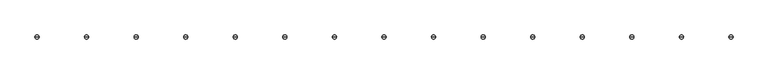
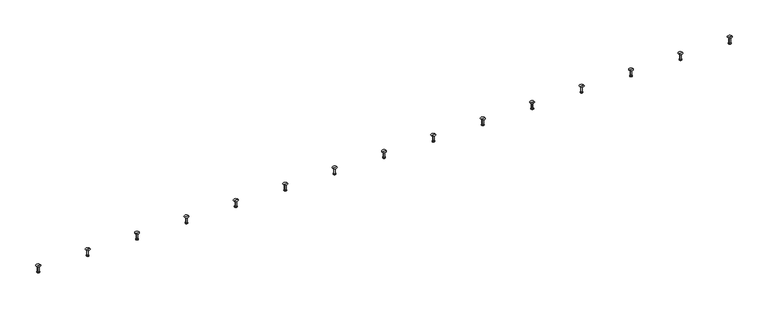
"""IFC4 building model written with IfcOpenShell, lengths in millimetres: fastener geometry, JTA-K JORDAHL® AnchorChannels : JTA-K L=6000 mm."""

from ifc_helpers import new_model, si_unit, frame, origin, place, context, project, spatial, polyline, circle_curve, source, transform, mapped, element, save
from ifc_brep_helpers import plane_surface, cylinder_surface, revolved_surface, advanced_brep


def fastener_de6a3690(model_context):
    return source(origin(), model_context, "Body", "AdvancedBrep", [
        advanced_brep(
        [(3991.6666667, 0.0, -15.0), (4002.1666667, 0.0, -15.0), (3981.1666667, 0.0, -15.0), (3985.6666667, 0.0, -50.0), (3997.6666667, 0.0, -50.0), (3991.6666667, 0.0, -50.0), (3985.6666667, 0.0, -48.0), (3997.6666667, 0.0, -48.0), (3988.1666667, 0.0, -46.5566243), (3995.1666667, 0.0, -46.5566243), (3988.1666667, 0.0, -17.5), (3995.1666667, 0.0, -17.5)],
        [
            (0, 1),
            (1, 2, circle_curve(frame((3991.6666667, 0.0, -15.0), z_axis=(0.0, 0.0, 1.0), x_axis=(1.0, 0.0, 0.0)), 10.5)),
            (2, 0),
            (2, 1, circle_curve(frame((3991.6666667, 0.0, -15.0), z_axis=(0.0, 0.0, 1.0), x_axis=(1.0, 0.0, 0.0)), 10.5)),
            (3, 4, circle_curve(frame((3991.6666667, 0.0, -50.0), z_axis=(0.0, 0.0, -1.0), x_axis=(1.0, 0.0, 0.0)), 6.0)),
            (4, 5),
            (5, 3),
            (4, 3, circle_curve(frame((3991.6666667, 0.0, -50.0), z_axis=(0.0, 0.0, -1.0), x_axis=(1.0, 0.0, 0.0)), 6.0)),
            (6, 7, circle_curve(frame((3991.6666667, 0.0, -48.0), z_axis=(0.0, 0.0, -1.0), x_axis=(1.0, 0.0, 0.0)), 6.0)),
            (7, 4),
            (3, 6),
            (7, 6, circle_curve(frame((3991.6666667, 0.0, -48.0), z_axis=(0.0, 0.0, -1.0), x_axis=(1.0, 0.0, 0.0)), 6.0)),
            (8, 9, circle_curve(frame((3991.6666667, 0.0, -46.5566243), z_axis=(0.0, 0.0, -1.0), x_axis=(1.0, 0.0, 0.0)), 3.5)),
            (9, 7),
            (6, 8),
            (9, 8, circle_curve(frame((3991.6666667, 0.0, -46.5566243), z_axis=(0.0, 0.0, -1.0), x_axis=(1.0, 0.0, 0.0)), 3.5)),
            (10, 11, circle_curve(frame((3991.6666667, 0.0, -17.5), z_axis=(0.0, 0.0, -1.0), x_axis=(1.0, 0.0, 0.0)), 3.5)),
            (11, 9),
            (8, 10),
            (11, 10, circle_curve(frame((3991.6666667, 0.0, -17.5), z_axis=(0.0, 0.0, -1.0), x_axis=(1.0, 0.0, 0.0)), 3.5)),
            (1, 11),
            (10, 2),
        ],
        [
            plane_surface(frame((3991.6666667, 0.0, -15.0), z_axis=(0.0, 0.0, 1.0), x_axis=(1.0, 0.0, 0.0))),
            plane_surface(frame((3991.6666667, 0.0, -50.0), z_axis=(0.0, 0.0, -1.0), x_axis=(1.0, 0.0, 0.0))),
            cylinder_surface(frame((3991.6666667, 0.0, 2249.3150031), z_axis=(0.0, 0.0, 1.0), x_axis=(1.0, 0.0, 0.0)), 6.0),
            revolved_surface(polyline([(3997.6666667, 0.0, -48.0), (3995.1666667, 0.0, -46.5566243)]), (3991.6666667, 0.0, 2249.3150031), (0.0, 0.0, 1.0)),
            cylinder_surface(frame((3991.6666667, 0.0, 2249.3150031), z_axis=(0.0, 0.0, 1.0), x_axis=(1.0, 0.0, 0.0)), 3.5),
            revolved_surface(polyline([(3995.1666667, 0.0, -17.5), (4002.1666667, 0.0, -15.0)]), (3991.6666667, 0.0, 2249.3150031), (0.0, 0.0, 1.0)),
        ],
        [
            (0, [[1, 2, 3]]),
            (0, [[-3, 4, -1]]),
            (1, [[5, 6, 7]]),
            (1, [[8, -7, -6]]),
            (2, [[9, 10, -5, 11]]),
            (2, [[12, -11, -8, -10]]),
            (3, [[13, 14, -9, 15]]),
            (3, [[16, -15, -12, -14]]),
            (4, [[17, 18, -13, 19]]),
            (4, [[20, -19, -16, -18]]),
            (5, [[-2, 21, -17, 22]]),
            (5, [[-4, -22, -20, -21]]),
        ],
    ),
        advanced_brep(
        [(3743.75, 0.0, -15.0), (3754.25, 0.0, -15.0), (3733.25, 0.0, -15.0), (3737.75, 0.0, -50.0), (3749.75, 0.0, -50.0), (3743.75, 0.0, -50.0), (3737.75, 0.0, -48.0), (3749.75, 0.0, -48.0), (3740.25, 0.0, -46.5566243), (3747.25, 0.0, -46.5566243), (3740.25, 0.0, -17.5), (3747.25, 0.0, -17.5)],
        [
            (0, 1),
            (1, 2, circle_curve(frame((3743.75, 0.0, -15.0), z_axis=(0.0, 0.0, 1.0), x_axis=(1.0, 0.0, 0.0)), 10.5)),
            (2, 0),
            (2, 1, circle_curve(frame((3743.75, 0.0, -15.0), z_axis=(0.0, 0.0, 1.0), x_axis=(1.0, 0.0, 0.0)), 10.5)),
            (3, 4, circle_curve(frame((3743.75, 0.0, -50.0), z_axis=(0.0, 0.0, -1.0), x_axis=(1.0, 0.0, 0.0)), 6.0)),
            (4, 5),
            (5, 3),
            (4, 3, circle_curve(frame((3743.75, 0.0, -50.0), z_axis=(0.0, 0.0, -1.0), x_axis=(1.0, 0.0, 0.0)), 6.0)),
            (6, 7, circle_curve(frame((3743.75, 0.0, -48.0), z_axis=(0.0, 0.0, -1.0), x_axis=(1.0, 0.0, 0.0)), 6.0)),
            (7, 4),
            (3, 6),
            (7, 6, circle_curve(frame((3743.75, 0.0, -48.0), z_axis=(0.0, 0.0, -1.0), x_axis=(1.0, 0.0, 0.0)), 6.0)),
            (8, 9, circle_curve(frame((3743.75, 0.0, -46.5566243), z_axis=(0.0, 0.0, -1.0), x_axis=(1.0, 0.0, 0.0)), 3.5)),
            (9, 7),
            (6, 8),
            (9, 8, circle_curve(frame((3743.75, 0.0, -46.5566243), z_axis=(0.0, 0.0, -1.0), x_axis=(1.0, 0.0, 0.0)), 3.5)),
            (10, 11, circle_curve(frame((3743.75, 0.0, -17.5), z_axis=(0.0, 0.0, -1.0), x_axis=(1.0, 0.0, 0.0)), 3.5)),
            (11, 9),
            (8, 10),
            (11, 10, circle_curve(frame((3743.75, 0.0, -17.5), z_axis=(0.0, 0.0, -1.0), x_axis=(1.0, 0.0, 0.0)), 3.5)),
            (1, 11),
            (10, 2),
        ],
        [
            plane_surface(frame((3743.75, 0.0, -15.0), z_axis=(0.0, 0.0, 1.0), x_axis=(1.0, 0.0, 0.0))),
            plane_surface(frame((3743.75, 0.0, -50.0), z_axis=(0.0, 0.0, -1.0), x_axis=(1.0, 0.0, 0.0))),
            cylinder_surface(frame((3743.75, 0.0, 2249.3150031), z_axis=(0.0, 0.0, 1.0), x_axis=(1.0, 0.0, 0.0)), 6.0),
            revolved_surface(polyline([(3749.75, 0.0, -48.0), (3747.25, 0.0, -46.5566243)]), (3743.75, 0.0, 2249.3150031), (0.0, 0.0, 1.0)),
            cylinder_surface(frame((3743.75, 0.0, 2249.3150031), z_axis=(0.0, 0.0, 1.0), x_axis=(1.0, 0.0, 0.0)), 3.5),
            revolved_surface(polyline([(3747.25, 0.0, -17.5), (3754.25, 0.0, -15.0)]), (3743.75, 0.0, 2249.3150031), (0.0, 0.0, 1.0)),
        ],
        [
            (0, [[1, 2, 3]]),
            (0, [[-3, 4, -1]]),
            (1, [[5, 6, 7]]),
            (1, [[8, -7, -6]]),
            (2, [[9, 10, -5, 11]]),
            (2, [[12, -11, -8, -10]]),
            (3, [[13, 14, -9, 15]]),
            (3, [[16, -15, -12, -14]]),
            (4, [[17, 18, -13, 19]]),
            (4, [[20, -19, -16, -18]]),
            (5, [[-2, 21, -17, 22]]),
            (5, [[-4, -22, -20, -21]]),
        ],
    ),
        advanced_brep(
        [(3495.8333333, 0.0, -15.0), (3506.3333333, 0.0, -15.0), (3485.3333333, 0.0, -15.0), (3489.8333333, 0.0, -50.0), (3501.8333333, 0.0, -50.0), (3495.8333333, 0.0, -50.0), (3489.8333333, 0.0, -48.0), (3501.8333333, 0.0, -48.0), (3492.3333333, 0.0, -46.5566243), (3499.3333333, 0.0, -46.5566243), (3492.3333333, 0.0, -17.5), (3499.3333333, 0.0, -17.5)],
        [
            (0, 1),
            (1, 2, circle_curve(frame((3495.8333333, 0.0, -15.0), z_axis=(0.0, 0.0, 1.0), x_axis=(1.0, 0.0, 0.0)), 10.5)),
            (2, 0),
            (2, 1, circle_curve(frame((3495.8333333, 0.0, -15.0), z_axis=(0.0, 0.0, 1.0), x_axis=(1.0, 0.0, 0.0)), 10.5)),
            (3, 4, circle_curve(frame((3495.8333333, 0.0, -50.0), z_axis=(0.0, 0.0, -1.0), x_axis=(1.0, 0.0, 0.0)), 6.0)),
            (4, 5),
            (5, 3),
            (4, 3, circle_curve(frame((3495.8333333, 0.0, -50.0), z_axis=(0.0, 0.0, -1.0), x_axis=(1.0, 0.0, 0.0)), 6.0)),
            (6, 7, circle_curve(frame((3495.8333333, 0.0, -48.0), z_axis=(0.0, 0.0, -1.0), x_axis=(1.0, 0.0, 0.0)), 6.0)),
            (7, 4),
            (3, 6),
            (7, 6, circle_curve(frame((3495.8333333, 0.0, -48.0), z_axis=(0.0, 0.0, -1.0), x_axis=(1.0, 0.0, 0.0)), 6.0)),
            (8, 9, circle_curve(frame((3495.8333333, 0.0, -46.5566243), z_axis=(0.0, 0.0, -1.0), x_axis=(1.0, 0.0, 0.0)), 3.5)),
            (9, 7),
            (6, 8),
            (9, 8, circle_curve(frame((3495.8333333, 0.0, -46.5566243), z_axis=(0.0, 0.0, -1.0), x_axis=(1.0, 0.0, 0.0)), 3.5)),
            (10, 11, circle_curve(frame((3495.8333333, 0.0, -17.5), z_axis=(0.0, 0.0, -1.0), x_axis=(1.0, 0.0, 0.0)), 3.5)),
            (11, 9),
            (8, 10),
            (11, 10, circle_curve(frame((3495.8333333, 0.0, -17.5), z_axis=(0.0, 0.0, -1.0), x_axis=(1.0, 0.0, 0.0)), 3.5)),
            (1, 11),
            (10, 2),
        ],
        [
            plane_surface(frame((3495.8333333, 0.0, -15.0), z_axis=(0.0, 0.0, 1.0), x_axis=(1.0, 0.0, 0.0))),
            plane_surface(frame((3495.8333333, 0.0, -50.0), z_axis=(0.0, 0.0, -1.0), x_axis=(1.0, 0.0, 0.0))),
            cylinder_surface(frame((3495.8333333, 0.0, 2249.3150031), z_axis=(0.0, 0.0, 1.0), x_axis=(1.0, 0.0, 0.0)), 6.0),
            revolved_surface(polyline([(3501.8333333, 0.0, -48.0), (3499.3333333, 0.0, -46.5566243)]), (3495.8333333, 0.0, 2249.3150031), (0.0, 0.0, 1.0)),
            cylinder_surface(frame((3495.8333333, 0.0, 2249.3150031), z_axis=(0.0, 0.0, 1.0), x_axis=(1.0, 0.0, 0.0)), 3.5),
            revolved_surface(polyline([(3499.3333333, 0.0, -17.5), (3506.3333333, 0.0, -15.0)]), (3495.8333333, 0.0, 2249.3150031), (0.0, 0.0, 1.0)),
        ],
        [
            (0, [[1, 2, 3]]),
            (0, [[-3, 4, -1]]),
            (1, [[5, 6, 7]]),
            (1, [[8, -7, -6]]),
            (2, [[9, 10, -5, 11]]),
            (2, [[12, -11, -8, -10]]),
            (3, [[13, 14, -9, 15]]),
            (3, [[16, -15, -12, -14]]),
            (4, [[17, 18, -13, 19]]),
            (4, [[20, -19, -16, -18]]),
            (5, [[-2, 21, -17, 22]]),
            (5, [[-4, -22, -20, -21]]),
        ],
    ),
        advanced_brep(
        [(3247.9166667, 0.0, -15.0), (3258.4166667, 0.0, -15.0), (3237.4166667, 0.0, -15.0), (3241.9166667, 0.0, -50.0), (3253.9166667, 0.0, -50.0), (3247.9166667, 0.0, -50.0), (3241.9166667, 0.0, -48.0), (3253.9166667, 0.0, -48.0), (3244.4166667, 0.0, -46.5566243), (3251.4166667, 0.0, -46.5566243), (3244.4166667, 0.0, -17.5), (3251.4166667, 0.0, -17.5)],
        [
            (0, 1),
            (1, 2, circle_curve(frame((3247.9166667, 0.0, -15.0), z_axis=(0.0, 0.0, 1.0), x_axis=(1.0, 0.0, 0.0)), 10.5)),
            (2, 0),
            (2, 1, circle_curve(frame((3247.9166667, 0.0, -15.0), z_axis=(0.0, 0.0, 1.0), x_axis=(1.0, 0.0, 0.0)), 10.5)),
            (3, 4, circle_curve(frame((3247.9166667, 0.0, -50.0), z_axis=(0.0, 0.0, -1.0), x_axis=(1.0, 0.0, 0.0)), 6.0)),
            (4, 5),
            (5, 3),
            (4, 3, circle_curve(frame((3247.9166667, 0.0, -50.0), z_axis=(0.0, 0.0, -1.0), x_axis=(1.0, 0.0, 0.0)), 6.0)),
            (6, 7, circle_curve(frame((3247.9166667, 0.0, -48.0), z_axis=(0.0, 0.0, -1.0), x_axis=(1.0, 0.0, 0.0)), 6.0)),
            (7, 4),
            (3, 6),
            (7, 6, circle_curve(frame((3247.9166667, 0.0, -48.0), z_axis=(0.0, 0.0, -1.0), x_axis=(1.0, 0.0, 0.0)), 6.0)),
            (8, 9, circle_curve(frame((3247.9166667, 0.0, -46.5566243), z_axis=(0.0, 0.0, -1.0), x_axis=(1.0, 0.0, 0.0)), 3.5)),
            (9, 7),
            (6, 8),
            (9, 8, circle_curve(frame((3247.9166667, 0.0, -46.5566243), z_axis=(0.0, 0.0, -1.0), x_axis=(1.0, 0.0, 0.0)), 3.5)),
            (10, 11, circle_curve(frame((3247.9166667, 0.0, -17.5), z_axis=(0.0, 0.0, -1.0), x_axis=(1.0, 0.0, 0.0)), 3.5)),
            (11, 9),
            (8, 10),
            (11, 10, circle_curve(frame((3247.9166667, 0.0, -17.5), z_axis=(0.0, 0.0, -1.0), x_axis=(1.0, 0.0, 0.0)), 3.5)),
            (1, 11),
            (10, 2),
        ],
        [
            plane_surface(frame((3247.9166667, 0.0, -15.0), z_axis=(0.0, 0.0, 1.0), x_axis=(1.0, 0.0, 0.0))),
            plane_surface(frame((3247.9166667, 0.0, -50.0), z_axis=(0.0, 0.0, -1.0), x_axis=(1.0, 0.0, 0.0))),
            cylinder_surface(frame((3247.9166667, 0.0, 2249.3150031), z_axis=(0.0, 0.0, 1.0), x_axis=(1.0, 0.0, 0.0)), 6.0),
            revolved_surface(polyline([(3253.9166667, 0.0, -48.0), (3251.4166667, 0.0, -46.5566243)]), (3247.9166667, 0.0, 2249.3150031), (0.0, 0.0, 1.0)),
            cylinder_surface(frame((3247.9166667, 0.0, 2249.3150031), z_axis=(0.0, 0.0, 1.0), x_axis=(1.0, 0.0, 0.0)), 3.5),
            revolved_surface(polyline([(3251.4166667, 0.0, -17.5), (3258.4166667, 0.0, -15.0)]), (3247.9166667, 0.0, 2249.3150031), (0.0, 0.0, 1.0)),
        ],
        [
            (0, [[1, 2, 3]]),
            (0, [[-3, 4, -1]]),
            (1, [[5, 6, 7]]),
            (1, [[8, -7, -6]]),
            (2, [[9, 10, -5, 11]]),
            (2, [[12, -11, -8, -10]]),
            (3, [[13, 14, -9, 15]]),
            (3, [[16, -15, -12, -14]]),
            (4, [[17, 18, -13, 19]]),
            (4, [[20, -19, -16, -18]]),
            (5, [[-2, 21, -17, 22]]),
            (5, [[-4, -22, -20, -21]]),
        ],
    ),
        advanced_brep(
        [(3000.0, 0.0, -15.0), (3010.5, 0.0, -15.0), (2989.5, 0.0, -15.0), (2994.0, 0.0, -50.0), (3006.0, 0.0, -50.0), (3000.0, 0.0, -50.0), (2994.0, 0.0, -48.0), (3006.0, 0.0, -48.0), (2996.5, 0.0, -46.5566243), (3003.5, 0.0, -46.5566243), (2996.5, 0.0, -17.5), (3003.5, 0.0, -17.5)],
        [
            (0, 1),
            (1, 2, circle_curve(frame((3000.0, 0.0, -15.0), z_axis=(0.0, 0.0, 1.0), x_axis=(1.0, 0.0, 0.0)), 10.5)),
            (2, 0),
            (2, 1, circle_curve(frame((3000.0, 0.0, -15.0), z_axis=(0.0, 0.0, 1.0), x_axis=(1.0, 0.0, 0.0)), 10.5)),
            (3, 4, circle_curve(frame((3000.0, 0.0, -50.0), z_axis=(0.0, 0.0, -1.0), x_axis=(1.0, 0.0, 0.0)), 6.0)),
            (4, 5),
            (5, 3),
            (4, 3, circle_curve(frame((3000.0, 0.0, -50.0), z_axis=(0.0, 0.0, -1.0), x_axis=(1.0, 0.0, 0.0)), 6.0)),
            (6, 7, circle_curve(frame((3000.0, 0.0, -48.0), z_axis=(0.0, 0.0, -1.0), x_axis=(1.0, 0.0, 0.0)), 6.0)),
            (7, 4),
            (3, 6),
            (7, 6, circle_curve(frame((3000.0, 0.0, -48.0), z_axis=(0.0, 0.0, -1.0), x_axis=(1.0, 0.0, 0.0)), 6.0)),
            (8, 9, circle_curve(frame((3000.0, 0.0, -46.5566243), z_axis=(0.0, 0.0, -1.0), x_axis=(1.0, 0.0, 0.0)), 3.5)),
            (9, 7),
            (6, 8),
            (9, 8, circle_curve(frame((3000.0, 0.0, -46.5566243), z_axis=(0.0, 0.0, -1.0), x_axis=(1.0, 0.0, 0.0)), 3.5)),
            (10, 11, circle_curve(frame((3000.0, 0.0, -17.5), z_axis=(0.0, 0.0, -1.0), x_axis=(1.0, 0.0, 0.0)), 3.5)),
            (11, 9),
            (8, 10),
            (11, 10, circle_curve(frame((3000.0, 0.0, -17.5), z_axis=(0.0, 0.0, -1.0), x_axis=(1.0, 0.0, 0.0)), 3.5)),
            (1, 11),
            (10, 2),
        ],
        [
            plane_surface(frame((3000.0, 0.0, -15.0), z_axis=(0.0, 0.0, 1.0), x_axis=(1.0, 0.0, 0.0))),
            plane_surface(frame((3000.0, 0.0, -50.0), z_axis=(0.0, 0.0, -1.0), x_axis=(1.0, 0.0, 0.0))),
            cylinder_surface(frame((3000.0, 0.0, 2249.3150031), z_axis=(0.0, 0.0, 1.0), x_axis=(1.0, 0.0, 0.0)), 6.0),
            revolved_surface(polyline([(3006.0, 0.0, -48.0), (3003.5, 0.0, -46.5566243)]), (3000.0, 0.0, 2249.3150031), (0.0, 0.0, 1.0)),
            cylinder_surface(frame((3000.0, 0.0, 2249.3150031), z_axis=(0.0, 0.0, 1.0), x_axis=(1.0, 0.0, 0.0)), 3.5),
            revolved_surface(polyline([(3003.5, 0.0, -17.5), (3010.5, 0.0, -15.0)]), (3000.0, 0.0, 2249.3150031), (0.0, 0.0, 1.0)),
        ],
        [
            (0, [[1, 2, 3]]),
            (0, [[-3, 4, -1]]),
            (1, [[5, 6, 7]]),
            (1, [[8, -7, -6]]),
            (2, [[9, 10, -5, 11]]),
            (2, [[12, -11, -8, -10]]),
            (3, [[13, 14, -9, 15]]),
            (3, [[16, -15, -12, -14]]),
            (4, [[17, 18, -13, 19]]),
            (4, [[20, -19, -16, -18]]),
            (5, [[-2, 21, -17, 22]]),
            (5, [[-4, -22, -20, -21]]),
        ],
    ),
        advanced_brep(
        [(2752.0833333, 0.0, -15.0), (2762.5833333, 0.0, -15.0), (2741.5833333, 0.0, -15.0), (2746.0833333, 0.0, -50.0), (2758.0833333, 0.0, -50.0), (2752.0833333, 0.0, -50.0), (2746.0833333, 0.0, -48.0), (2758.0833333, 0.0, -48.0), (2748.5833333, 0.0, -46.5566243), (2755.5833333, 0.0, -46.5566243), (2748.5833333, 0.0, -17.5), (2755.5833333, 0.0, -17.5)],
        [
            (0, 1),
            (1, 2, circle_curve(frame((2752.0833333, 0.0, -15.0), z_axis=(0.0, 0.0, 1.0), x_axis=(1.0, 0.0, 0.0)), 10.5)),
            (2, 0),
            (2, 1, circle_curve(frame((2752.0833333, 0.0, -15.0), z_axis=(0.0, 0.0, 1.0), x_axis=(1.0, 0.0, 0.0)), 10.5)),
            (3, 4, circle_curve(frame((2752.0833333, 0.0, -50.0), z_axis=(0.0, 0.0, -1.0), x_axis=(1.0, 0.0, 0.0)), 6.0)),
            (4, 5),
            (5, 3),
            (4, 3, circle_curve(frame((2752.0833333, 0.0, -50.0), z_axis=(0.0, 0.0, -1.0), x_axis=(1.0, 0.0, 0.0)), 6.0)),
            (6, 7, circle_curve(frame((2752.0833333, 0.0, -48.0), z_axis=(0.0, 0.0, -1.0), x_axis=(1.0, 0.0, 0.0)), 6.0)),
            (7, 4),
            (3, 6),
            (7, 6, circle_curve(frame((2752.0833333, 0.0, -48.0), z_axis=(0.0, 0.0, -1.0), x_axis=(1.0, 0.0, 0.0)), 6.0)),
            (8, 9, circle_curve(frame((2752.0833333, 0.0, -46.5566243), z_axis=(0.0, 0.0, -1.0), x_axis=(1.0, 0.0, 0.0)), 3.5)),
            (9, 7),
            (6, 8),
            (9, 8, circle_curve(frame((2752.0833333, 0.0, -46.5566243), z_axis=(0.0, 0.0, -1.0), x_axis=(1.0, 0.0, 0.0)), 3.5)),
            (10, 11, circle_curve(frame((2752.0833333, 0.0, -17.5), z_axis=(0.0, 0.0, -1.0), x_axis=(1.0, 0.0, 0.0)), 3.5)),
            (11, 9),
            (8, 10),
            (11, 10, circle_curve(frame((2752.0833333, 0.0, -17.5), z_axis=(0.0, 0.0, -1.0), x_axis=(1.0, 0.0, 0.0)), 3.5)),
            (1, 11),
            (10, 2),
        ],
        [
            plane_surface(frame((2752.0833333, 0.0, -15.0), z_axis=(0.0, 0.0, 1.0), x_axis=(1.0, 0.0, 0.0))),
            plane_surface(frame((2752.0833333, 0.0, -50.0), z_axis=(0.0, 0.0, -1.0), x_axis=(1.0, 0.0, 0.0))),
            cylinder_surface(frame((2752.0833333, 0.0, 2249.3150031), z_axis=(0.0, 0.0, 1.0), x_axis=(1.0, 0.0, 0.0)), 6.0),
            revolved_surface(polyline([(2758.0833333, 0.0, -48.0), (2755.5833333, 0.0, -46.5566243)]), (2752.0833333, 0.0, 2249.3150031), (0.0, 0.0, 1.0)),
            cylinder_surface(frame((2752.0833333, 0.0, 2249.3150031), z_axis=(0.0, 0.0, 1.0), x_axis=(1.0, 0.0, 0.0)), 3.5),
            revolved_surface(polyline([(2755.5833333, 0.0, -17.5), (2762.5833333, 0.0, -15.0)]), (2752.0833333, 0.0, 2249.3150031), (0.0, 0.0, 1.0)),
        ],
        [
            (0, [[1, 2, 3]]),
            (0, [[-3, 4, -1]]),
            (1, [[5, 6, 7]]),
            (1, [[8, -7, -6]]),
            (2, [[9, 10, -5, 11]]),
            (2, [[12, -11, -8, -10]]),
            (3, [[13, 14, -9, 15]]),
            (3, [[16, -15, -12, -14]]),
            (4, [[17, 18, -13, 19]]),
            (4, [[20, -19, -16, -18]]),
            (5, [[-2, 21, -17, 22]]),
            (5, [[-4, -22, -20, -21]]),
        ],
    ),
        advanced_brep(
        [(2504.1666667, 0.0, -15.0), (2514.6666667, 0.0, -15.0), (2493.6666667, 0.0, -15.0), (2498.1666667, 0.0, -50.0), (2510.1666667, 0.0, -50.0), (2504.1666667, 0.0, -50.0), (2498.1666667, 0.0, -48.0), (2510.1666667, 0.0, -48.0), (2500.6666667, 0.0, -46.5566243), (2507.6666667, 0.0, -46.5566243), (2500.6666667, 0.0, -17.5), (2507.6666667, 0.0, -17.5)],
        [
            (0, 1),
            (1, 2, circle_curve(frame((2504.1666667, 0.0, -15.0), z_axis=(0.0, 0.0, 1.0), x_axis=(1.0, 0.0, 0.0)), 10.5)),
            (2, 0),
            (2, 1, circle_curve(frame((2504.1666667, 0.0, -15.0), z_axis=(0.0, 0.0, 1.0), x_axis=(1.0, 0.0, 0.0)), 10.5)),
            (3, 4, circle_curve(frame((2504.1666667, 0.0, -50.0), z_axis=(0.0, 0.0, -1.0), x_axis=(1.0, 0.0, 0.0)), 6.0)),
            (4, 5),
            (5, 3),
            (4, 3, circle_curve(frame((2504.1666667, 0.0, -50.0), z_axis=(0.0, 0.0, -1.0), x_axis=(1.0, 0.0, 0.0)), 6.0)),
            (6, 7, circle_curve(frame((2504.1666667, 0.0, -48.0), z_axis=(0.0, 0.0, -1.0), x_axis=(1.0, 0.0, 0.0)), 6.0)),
            (7, 4),
            (3, 6),
            (7, 6, circle_curve(frame((2504.1666667, 0.0, -48.0), z_axis=(0.0, 0.0, -1.0), x_axis=(1.0, 0.0, 0.0)), 6.0)),
            (8, 9, circle_curve(frame((2504.1666667, 0.0, -46.5566243), z_axis=(0.0, 0.0, -1.0), x_axis=(1.0, 0.0, 0.0)), 3.5)),
            (9, 7),
            (6, 8),
            (9, 8, circle_curve(frame((2504.1666667, 0.0, -46.5566243), z_axis=(0.0, 0.0, -1.0), x_axis=(1.0, 0.0, 0.0)), 3.5)),
            (10, 11, circle_curve(frame((2504.1666667, 0.0, -17.5), z_axis=(0.0, 0.0, -1.0), x_axis=(1.0, 0.0, 0.0)), 3.5)),
            (11, 9),
            (8, 10),
            (11, 10, circle_curve(frame((2504.1666667, 0.0, -17.5), z_axis=(0.0, 0.0, -1.0), x_axis=(1.0, 0.0, 0.0)), 3.5)),
            (1, 11),
            (10, 2),
        ],
        [
            plane_surface(frame((2504.1666667, 0.0, -15.0), z_axis=(0.0, 0.0, 1.0), x_axis=(1.0, 0.0, 0.0))),
            plane_surface(frame((2504.1666667, 0.0, -50.0), z_axis=(0.0, 0.0, -1.0), x_axis=(1.0, 0.0, 0.0))),
            cylinder_surface(frame((2504.1666667, 0.0, 2249.3150031), z_axis=(0.0, 0.0, 1.0), x_axis=(1.0, 0.0, 0.0)), 6.0),
            revolved_surface(polyline([(2510.1666667, 0.0, -48.0), (2507.6666667, 0.0, -46.5566243)]), (2504.1666667, 0.0, 2249.3150031), (0.0, 0.0, 1.0)),
            cylinder_surface(frame((2504.1666667, 0.0, 2249.3150031), z_axis=(0.0, 0.0, 1.0), x_axis=(1.0, 0.0, 0.0)), 3.5),
            revolved_surface(polyline([(2507.6666667, 0.0, -17.5), (2514.6666667, 0.0, -15.0)]), (2504.1666667, 0.0, 2249.3150031), (0.0, 0.0, 1.0)),
        ],
        [
            (0, [[1, 2, 3]]),
            (0, [[-3, 4, -1]]),
            (1, [[5, 6, 7]]),
            (1, [[8, -7, -6]]),
            (2, [[9, 10, -5, 11]]),
            (2, [[12, -11, -8, -10]]),
            (3, [[13, 14, -9, 15]]),
            (3, [[16, -15, -12, -14]]),
            (4, [[17, 18, -13, 19]]),
            (4, [[20, -19, -16, -18]]),
            (5, [[-2, 21, -17, 22]]),
            (5, [[-4, -22, -20, -21]]),
        ],
    ),
        advanced_brep(
        [(2256.25, 0.0, -15.0), (2266.75, 0.0, -15.0), (2245.75, 0.0, -15.0), (2250.25, 0.0, -50.0), (2262.25, 0.0, -50.0), (2256.25, 0.0, -50.0), (2250.25, 0.0, -48.0), (2262.25, 0.0, -48.0), (2252.75, 0.0, -46.5566243), (2259.75, 0.0, -46.5566243), (2252.75, 0.0, -17.5), (2259.75, 0.0, -17.5)],
        [
            (0, 1),
            (1, 2, circle_curve(frame((2256.25, 0.0, -15.0), z_axis=(0.0, 0.0, 1.0), x_axis=(1.0, 0.0, 0.0)), 10.5)),
            (2, 0),
            (2, 1, circle_curve(frame((2256.25, 0.0, -15.0), z_axis=(0.0, 0.0, 1.0), x_axis=(1.0, 0.0, 0.0)), 10.5)),
            (3, 4, circle_curve(frame((2256.25, 0.0, -50.0), z_axis=(0.0, 0.0, -1.0), x_axis=(1.0, 0.0, 0.0)), 6.0)),
            (4, 5),
            (5, 3),
            (4, 3, circle_curve(frame((2256.25, 0.0, -50.0), z_axis=(0.0, 0.0, -1.0), x_axis=(1.0, 0.0, 0.0)), 6.0)),
            (6, 7, circle_curve(frame((2256.25, 0.0, -48.0), z_axis=(0.0, 0.0, -1.0), x_axis=(1.0, 0.0, 0.0)), 6.0)),
            (7, 4),
            (3, 6),
            (7, 6, circle_curve(frame((2256.25, 0.0, -48.0), z_axis=(0.0, 0.0, -1.0), x_axis=(1.0, 0.0, 0.0)), 6.0)),
            (8, 9, circle_curve(frame((2256.25, 0.0, -46.5566243), z_axis=(0.0, 0.0, -1.0), x_axis=(1.0, 0.0, 0.0)), 3.5)),
            (9, 7),
            (6, 8),
            (9, 8, circle_curve(frame((2256.25, 0.0, -46.5566243), z_axis=(0.0, 0.0, -1.0), x_axis=(1.0, 0.0, 0.0)), 3.5)),
            (10, 11, circle_curve(frame((2256.25, 0.0, -17.5), z_axis=(0.0, 0.0, -1.0), x_axis=(1.0, 0.0, 0.0)), 3.5)),
            (11, 9),
            (8, 10),
            (11, 10, circle_curve(frame((2256.25, 0.0, -17.5), z_axis=(0.0, 0.0, -1.0), x_axis=(1.0, 0.0, 0.0)), 3.5)),
            (1, 11),
            (10, 2),
        ],
        [
            plane_surface(frame((2256.25, 0.0, -15.0), z_axis=(0.0, 0.0, 1.0), x_axis=(1.0, 0.0, 0.0))),
            plane_surface(frame((2256.25, 0.0, -50.0), z_axis=(0.0, 0.0, -1.0), x_axis=(1.0, 0.0, 0.0))),
            cylinder_surface(frame((2256.25, 0.0, 2249.3150031), z_axis=(0.0, 0.0, 1.0), x_axis=(1.0, 0.0, 0.0)), 6.0),
            revolved_surface(polyline([(2262.25, 0.0, -48.0), (2259.75, 0.0, -46.5566243)]), (2256.25, 0.0, 2249.3150031), (0.0, 0.0, 1.0)),
            cylinder_surface(frame((2256.25, 0.0, 2249.3150031), z_axis=(0.0, 0.0, 1.0), x_axis=(1.0, 0.0, 0.0)), 3.5),
            revolved_surface(polyline([(2259.75, 0.0, -17.5), (2266.75, 0.0, -15.0)]), (2256.25, 0.0, 2249.3150031), (0.0, 0.0, 1.0)),
        ],
        [
            (0, [[1, 2, 3]]),
            (0, [[-3, 4, -1]]),
            (1, [[5, 6, 7]]),
            (1, [[8, -7, -6]]),
            (2, [[9, 10, -5, 11]]),
            (2, [[12, -11, -8, -10]]),
            (3, [[13, 14, -9, 15]]),
            (3, [[16, -15, -12, -14]]),
            (4, [[17, 18, -13, 19]]),
            (4, [[20, -19, -16, -18]]),
            (5, [[-2, 21, -17, 22]]),
            (5, [[-4, -22, -20, -21]]),
        ],
    ),
        advanced_brep(
        [(2008.3333333, 0.0, -15.0), (2018.8333333, 0.0, -15.0), (1997.8333333, 0.0, -15.0), (2002.3333333, 0.0, -50.0), (2014.3333333, 0.0, -50.0), (2008.3333333, 0.0, -50.0), (2002.3333333, 0.0, -48.0), (2014.3333333, 0.0, -48.0), (2004.8333333, 0.0, -46.5566243), (2011.8333333, 0.0, -46.5566243), (2004.8333333, 0.0, -17.5), (2011.8333333, 0.0, -17.5)],
        [
            (0, 1),
            (1, 2, circle_curve(frame((2008.3333333, 0.0, -15.0), z_axis=(0.0, 0.0, 1.0), x_axis=(1.0, 0.0, 0.0)), 10.5)),
            (2, 0),
            (2, 1, circle_curve(frame((2008.3333333, 0.0, -15.0), z_axis=(0.0, 0.0, 1.0), x_axis=(1.0, 0.0, 0.0)), 10.5)),
            (3, 4, circle_curve(frame((2008.3333333, 0.0, -50.0), z_axis=(0.0, 0.0, -1.0), x_axis=(1.0, 0.0, 0.0)), 6.0)),
            (4, 5),
            (5, 3),
            (4, 3, circle_curve(frame((2008.3333333, 0.0, -50.0), z_axis=(0.0, 0.0, -1.0), x_axis=(1.0, 0.0, 0.0)), 6.0)),
            (6, 7, circle_curve(frame((2008.3333333, 0.0, -48.0), z_axis=(0.0, 0.0, -1.0), x_axis=(1.0, 0.0, 0.0)), 6.0)),
            (7, 4),
            (3, 6),
            (7, 6, circle_curve(frame((2008.3333333, 0.0, -48.0), z_axis=(0.0, 0.0, -1.0), x_axis=(1.0, 0.0, 0.0)), 6.0)),
            (8, 9, circle_curve(frame((2008.3333333, 0.0, -46.5566243), z_axis=(0.0, 0.0, -1.0), x_axis=(1.0, 0.0, 0.0)), 3.5)),
            (9, 7),
            (6, 8),
            (9, 8, circle_curve(frame((2008.3333333, 0.0, -46.5566243), z_axis=(0.0, 0.0, -1.0), x_axis=(1.0, 0.0, 0.0)), 3.5)),
            (10, 11, circle_curve(frame((2008.3333333, 0.0, -17.5), z_axis=(0.0, 0.0, -1.0), x_axis=(1.0, 0.0, 0.0)), 3.5)),
            (11, 9),
            (8, 10),
            (11, 10, circle_curve(frame((2008.3333333, 0.0, -17.5), z_axis=(0.0, 0.0, -1.0), x_axis=(1.0, 0.0, 0.0)), 3.5)),
            (1, 11),
            (10, 2),
        ],
        [
            plane_surface(frame((2008.3333333, 0.0, -15.0), z_axis=(0.0, 0.0, 1.0), x_axis=(1.0, 0.0, 0.0))),
            plane_surface(frame((2008.3333333, 0.0, -50.0), z_axis=(0.0, 0.0, -1.0), x_axis=(1.0, 0.0, 0.0))),
            cylinder_surface(frame((2008.3333333, 0.0, 2249.3150031), z_axis=(0.0, 0.0, 1.0), x_axis=(1.0, 0.0, 0.0)), 6.0),
            revolved_surface(polyline([(2014.3333333, 0.0, -48.0), (2011.8333333, 0.0, -46.5566243)]), (2008.3333333, 0.0, 2249.3150031), (0.0, 0.0, 1.0)),
            cylinder_surface(frame((2008.3333333, 0.0, 2249.3150031), z_axis=(0.0, 0.0, 1.0), x_axis=(1.0, 0.0, 0.0)), 3.5),
            revolved_surface(polyline([(2011.8333333, 0.0, -17.5), (2018.8333333, 0.0, -15.0)]), (2008.3333333, 0.0, 2249.3150031), (0.0, 0.0, 1.0)),
        ],
        [
            (0, [[1, 2, 3]]),
            (0, [[-3, 4, -1]]),
            (1, [[5, 6, 7]]),
            (1, [[8, -7, -6]]),
            (2, [[9, 10, -5, 11]]),
            (2, [[12, -11, -8, -10]]),
            (3, [[13, 14, -9, 15]]),
            (3, [[16, -15, -12, -14]]),
            (4, [[17, 18, -13, 19]]),
            (4, [[20, -19, -16, -18]]),
            (5, [[-2, 21, -17, 22]]),
            (5, [[-4, -22, -20, -21]]),
        ],
    ),
        advanced_brep(
        [(1760.4166667, 0.0, -15.0), (1770.9166667, 0.0, -15.0), (1749.9166667, 0.0, -15.0), (1754.4166667, 0.0, -50.0), (1766.4166667, 0.0, -50.0), (1760.4166667, 0.0, -50.0), (1754.4166667, 0.0, -48.0), (1766.4166667, 0.0, -48.0), (1756.9166667, 0.0, -46.5566243), (1763.9166667, 0.0, -46.5566243), (1756.9166667, 0.0, -17.5), (1763.9166667, 0.0, -17.5)],
        [
            (0, 1),
            (1, 2, circle_curve(frame((1760.4166667, 0.0, -15.0), z_axis=(0.0, 0.0, 1.0), x_axis=(1.0, 0.0, 0.0)), 10.5)),
            (2, 0),
            (2, 1, circle_curve(frame((1760.4166667, 0.0, -15.0), z_axis=(0.0, 0.0, 1.0), x_axis=(1.0, 0.0, 0.0)), 10.5)),
            (3, 4, circle_curve(frame((1760.4166667, 0.0, -50.0), z_axis=(0.0, 0.0, -1.0), x_axis=(1.0, 0.0, 0.0)), 6.0)),
            (4, 5),
            (5, 3),
            (4, 3, circle_curve(frame((1760.4166667, 0.0, -50.0), z_axis=(0.0, 0.0, -1.0), x_axis=(1.0, 0.0, 0.0)), 6.0)),
            (6, 7, circle_curve(frame((1760.4166667, 0.0, -48.0), z_axis=(0.0, 0.0, -1.0), x_axis=(1.0, 0.0, 0.0)), 6.0)),
            (7, 4),
            (3, 6),
            (7, 6, circle_curve(frame((1760.4166667, 0.0, -48.0), z_axis=(0.0, 0.0, -1.0), x_axis=(1.0, 0.0, 0.0)), 6.0)),
            (8, 9, circle_curve(frame((1760.4166667, 0.0, -46.5566243), z_axis=(0.0, 0.0, -1.0), x_axis=(1.0, 0.0, 0.0)), 3.5)),
            (9, 7),
            (6, 8),
            (9, 8, circle_curve(frame((1760.4166667, 0.0, -46.5566243), z_axis=(0.0, 0.0, -1.0), x_axis=(1.0, 0.0, 0.0)), 3.5)),
            (10, 11, circle_curve(frame((1760.4166667, 0.0, -17.5), z_axis=(0.0, 0.0, -1.0), x_axis=(1.0, 0.0, 0.0)), 3.5)),
            (11, 9),
            (8, 10),
            (11, 10, circle_curve(frame((1760.4166667, 0.0, -17.5), z_axis=(0.0, 0.0, -1.0), x_axis=(1.0, 0.0, 0.0)), 3.5)),
            (1, 11),
            (10, 2),
        ],
        [
            plane_surface(frame((1760.4166667, 0.0, -15.0), z_axis=(0.0, 0.0, 1.0), x_axis=(1.0, 0.0, 0.0))),
            plane_surface(frame((1760.4166667, 0.0, -50.0), z_axis=(0.0, 0.0, -1.0), x_axis=(1.0, 0.0, 0.0))),
            cylinder_surface(frame((1760.4166667, 0.0, 2249.3150031), z_axis=(0.0, 0.0, 1.0), x_axis=(1.0, 0.0, 0.0)), 6.0),
            revolved_surface(polyline([(1766.4166667, 0.0, -48.0), (1763.9166667, 0.0, -46.5566243)]), (1760.4166667, 0.0, 2249.3150031), (0.0, 0.0, 1.0)),
            cylinder_surface(frame((1760.4166667, 0.0, 2249.3150031), z_axis=(0.0, 0.0, 1.0), x_axis=(1.0, 0.0, 0.0)), 3.5),
            revolved_surface(polyline([(1763.9166667, 0.0, -17.5), (1770.9166667, 0.0, -15.0)]), (1760.4166667, 0.0, 2249.3150031), (0.0, 0.0, 1.0)),
        ],
        [
            (0, [[1, 2, 3]]),
            (0, [[-3, 4, -1]]),
            (1, [[5, 6, 7]]),
            (1, [[8, -7, -6]]),
            (2, [[9, 10, -5, 11]]),
            (2, [[12, -11, -8, -10]]),
            (3, [[13, 14, -9, 15]]),
            (3, [[16, -15, -12, -14]]),
            (4, [[17, 18, -13, 19]]),
            (4, [[20, -19, -16, -18]]),
            (5, [[-2, 21, -17, 22]]),
            (5, [[-4, -22, -20, -21]]),
        ],
    ),
        advanced_brep(
        [(1512.5, 0.0, -15.0), (1523.0, 0.0, -15.0), (1502.0, 0.0, -15.0), (1506.5, 0.0, -50.0), (1518.5, 0.0, -50.0), (1512.5, 0.0, -50.0), (1506.5, 0.0, -48.0), (1518.5, 0.0, -48.0), (1509.0, 0.0, -46.5566243), (1516.0, 0.0, -46.5566243), (1509.0, 0.0, -17.5), (1516.0, 0.0, -17.5)],
        [
            (0, 1),
            (1, 2, circle_curve(frame((1512.5, 0.0, -15.0), z_axis=(0.0, 0.0, 1.0), x_axis=(1.0, 0.0, 0.0)), 10.5)),
            (2, 0),
            (2, 1, circle_curve(frame((1512.5, 0.0, -15.0), z_axis=(0.0, 0.0, 1.0), x_axis=(1.0, 0.0, 0.0)), 10.5)),
            (3, 4, circle_curve(frame((1512.5, 0.0, -50.0), z_axis=(0.0, 0.0, -1.0), x_axis=(1.0, 0.0, 0.0)), 6.0)),
            (4, 5),
            (5, 3),
            (4, 3, circle_curve(frame((1512.5, 0.0, -50.0), z_axis=(0.0, 0.0, -1.0), x_axis=(1.0, 0.0, 0.0)), 6.0)),
            (6, 7, circle_curve(frame((1512.5, 0.0, -48.0), z_axis=(0.0, 0.0, -1.0), x_axis=(1.0, 0.0, 0.0)), 6.0)),
            (7, 4),
            (3, 6),
            (7, 6, circle_curve(frame((1512.5, 0.0, -48.0), z_axis=(0.0, 0.0, -1.0), x_axis=(1.0, 0.0, 0.0)), 6.0)),
            (8, 9, circle_curve(frame((1512.5, 0.0, -46.5566243), z_axis=(0.0, 0.0, -1.0), x_axis=(1.0, 0.0, 0.0)), 3.5)),
            (9, 7),
            (6, 8),
            (9, 8, circle_curve(frame((1512.5, 0.0, -46.5566243), z_axis=(0.0, 0.0, -1.0), x_axis=(1.0, 0.0, 0.0)), 3.5)),
            (10, 11, circle_curve(frame((1512.5, 0.0, -17.5), z_axis=(0.0, 0.0, -1.0), x_axis=(1.0, 0.0, 0.0)), 3.5)),
            (11, 9),
            (8, 10),
            (11, 10, circle_curve(frame((1512.5, 0.0, -17.5), z_axis=(0.0, 0.0, -1.0), x_axis=(1.0, 0.0, 0.0)), 3.5)),
            (1, 11),
            (10, 2),
        ],
        [
            plane_surface(frame((1512.5, 0.0, -15.0), z_axis=(0.0, 0.0, 1.0), x_axis=(1.0, 0.0, 0.0))),
            plane_surface(frame((1512.5, 0.0, -50.0), z_axis=(0.0, 0.0, -1.0), x_axis=(1.0, 0.0, 0.0))),
            cylinder_surface(frame((1512.5, 0.0, 2249.3150031), z_axis=(0.0, 0.0, 1.0), x_axis=(1.0, 0.0, 0.0)), 6.0),
            revolved_surface(polyline([(1518.5, 0.0, -48.0), (1516.0, 0.0, -46.5566243)]), (1512.5, 0.0, 2249.3150031), (0.0, 0.0, 1.0)),
            cylinder_surface(frame((1512.5, 0.0, 2249.3150031), z_axis=(0.0, 0.0, 1.0), x_axis=(1.0, 0.0, 0.0)), 3.5),
            revolved_surface(polyline([(1516.0, 0.0, -17.5), (1523.0, 0.0, -15.0)]), (1512.5, 0.0, 2249.3150031), (0.0, 0.0, 1.0)),
        ],
        [
            (0, [[1, 2, 3]]),
            (0, [[-3, 4, -1]]),
            (1, [[5, 6, 7]]),
            (1, [[8, -7, -6]]),
            (2, [[9, 10, -5, 11]]),
            (2, [[12, -11, -8, -10]]),
            (3, [[13, 14, -9, 15]]),
            (3, [[16, -15, -12, -14]]),
            (4, [[17, 18, -13, 19]]),
            (4, [[20, -19, -16, -18]]),
            (5, [[-2, 21, -17, 22]]),
            (5, [[-4, -22, -20, -21]]),
        ],
    ),
        advanced_brep(
        [(1264.5833333, 0.0, -15.0), (1275.0833333, 0.0, -15.0), (1254.0833333, 0.0, -15.0), (1258.5833333, 0.0, -50.0), (1270.5833333, 0.0, -50.0), (1264.5833333, 0.0, -50.0), (1258.5833333, 0.0, -48.0), (1270.5833333, 0.0, -48.0), (1261.0833333, 0.0, -46.5566243), (1268.0833333, 0.0, -46.5566243), (1261.0833333, 0.0, -17.5), (1268.0833333, 0.0, -17.5)],
        [
            (0, 1),
            (1, 2, circle_curve(frame((1264.5833333, 0.0, -15.0), z_axis=(0.0, 0.0, 1.0), x_axis=(1.0, 0.0, 0.0)), 10.5)),
            (2, 0),
            (2, 1, circle_curve(frame((1264.5833333, 0.0, -15.0), z_axis=(0.0, 0.0, 1.0), x_axis=(1.0, 0.0, 0.0)), 10.5)),
            (3, 4, circle_curve(frame((1264.5833333, 0.0, -50.0), z_axis=(0.0, 0.0, -1.0), x_axis=(1.0, 0.0, 0.0)), 6.0)),
            (4, 5),
            (5, 3),
            (4, 3, circle_curve(frame((1264.5833333, 0.0, -50.0), z_axis=(0.0, 0.0, -1.0), x_axis=(1.0, 0.0, 0.0)), 6.0)),
            (6, 7, circle_curve(frame((1264.5833333, 0.0, -48.0), z_axis=(0.0, 0.0, -1.0), x_axis=(1.0, 0.0, 0.0)), 6.0)),
            (7, 4),
            (3, 6),
            (7, 6, circle_curve(frame((1264.5833333, 0.0, -48.0), z_axis=(0.0, 0.0, -1.0), x_axis=(1.0, 0.0, 0.0)), 6.0)),
            (8, 9, circle_curve(frame((1264.5833333, 0.0, -46.5566243), z_axis=(0.0, 0.0, -1.0), x_axis=(1.0, 0.0, 0.0)), 3.5)),
            (9, 7),
            (6, 8),
            (9, 8, circle_curve(frame((1264.5833333, 0.0, -46.5566243), z_axis=(0.0, 0.0, -1.0), x_axis=(1.0, 0.0, 0.0)), 3.5)),
            (10, 11, circle_curve(frame((1264.5833333, 0.0, -17.5), z_axis=(0.0, 0.0, -1.0), x_axis=(1.0, 0.0, 0.0)), 3.5)),
            (11, 9),
            (8, 10),
            (11, 10, circle_curve(frame((1264.5833333, 0.0, -17.5), z_axis=(0.0, 0.0, -1.0), x_axis=(1.0, 0.0, 0.0)), 3.5)),
            (1, 11),
            (10, 2),
        ],
        [
            plane_surface(frame((1264.5833333, 0.0, -15.0), z_axis=(0.0, 0.0, 1.0), x_axis=(1.0, 0.0, 0.0))),
            plane_surface(frame((1264.5833333, 0.0, -50.0), z_axis=(0.0, 0.0, -1.0), x_axis=(1.0, 0.0, 0.0))),
            cylinder_surface(frame((1264.5833333, 0.0, 2249.3150031), z_axis=(0.0, 0.0, 1.0), x_axis=(1.0, 0.0, 0.0)), 6.0),
            revolved_surface(polyline([(1270.5833333, 0.0, -48.0), (1268.0833333, 0.0, -46.5566243)]), (1264.5833333, 0.0, 2249.3150031), (0.0, 0.0, 1.0)),
            cylinder_surface(frame((1264.5833333, 0.0, 2249.3150031), z_axis=(0.0, 0.0, 1.0), x_axis=(1.0, 0.0, 0.0)), 3.5),
            revolved_surface(polyline([(1268.0833333, 0.0, -17.5), (1275.0833333, 0.0, -15.0)]), (1264.5833333, 0.0, 2249.3150031), (0.0, 0.0, 1.0)),
        ],
        [
            (0, [[1, 2, 3]]),
            (0, [[-3, 4, -1]]),
            (1, [[5, 6, 7]]),
            (1, [[8, -7, -6]]),
            (2, [[9, 10, -5, 11]]),
            (2, [[12, -11, -8, -10]]),
            (3, [[13, 14, -9, 15]]),
            (3, [[16, -15, -12, -14]]),
            (4, [[17, 18, -13, 19]]),
            (4, [[20, -19, -16, -18]]),
            (5, [[-2, 21, -17, 22]]),
            (5, [[-4, -22, -20, -21]]),
        ],
    ),
        advanced_brep(
        [(1016.6666667, 0.0, -15.0), (1027.1666667, 0.0, -15.0), (1006.1666667, 0.0, -15.0), (1010.6666667, 0.0, -50.0), (1022.6666667, 0.0, -50.0), (1016.6666667, 0.0, -50.0), (1010.6666667, 0.0, -48.0), (1022.6666667, 0.0, -48.0), (1013.1666667, 0.0, -46.5566243), (1020.1666667, 0.0, -46.5566243), (1013.1666667, 0.0, -17.5), (1020.1666667, 0.0, -17.5)],
        [
            (0, 1),
            (1, 2, circle_curve(frame((1016.6666667, 0.0, -15.0), z_axis=(0.0, 0.0, 1.0), x_axis=(1.0, 0.0, 0.0)), 10.5)),
            (2, 0),
            (2, 1, circle_curve(frame((1016.6666667, 0.0, -15.0), z_axis=(0.0, 0.0, 1.0), x_axis=(1.0, 0.0, 0.0)), 10.5)),
            (3, 4, circle_curve(frame((1016.6666667, 0.0, -50.0), z_axis=(0.0, 0.0, -1.0), x_axis=(1.0, 0.0, 0.0)), 6.0)),
            (4, 5),
            (5, 3),
            (4, 3, circle_curve(frame((1016.6666667, 0.0, -50.0), z_axis=(0.0, 0.0, -1.0), x_axis=(1.0, 0.0, 0.0)), 6.0)),
            (6, 7, circle_curve(frame((1016.6666667, 0.0, -48.0), z_axis=(0.0, 0.0, -1.0), x_axis=(1.0, 0.0, 0.0)), 6.0)),
            (7, 4),
            (3, 6),
            (7, 6, circle_curve(frame((1016.6666667, 0.0, -48.0), z_axis=(0.0, 0.0, -1.0), x_axis=(1.0, 0.0, 0.0)), 6.0)),
            (8, 9, circle_curve(frame((1016.6666667, 0.0, -46.5566243), z_axis=(0.0, 0.0, -1.0), x_axis=(1.0, 0.0, 0.0)), 3.5)),
            (9, 7),
            (6, 8),
            (9, 8, circle_curve(frame((1016.6666667, 0.0, -46.5566243), z_axis=(0.0, 0.0, -1.0), x_axis=(1.0, 0.0, 0.0)), 3.5)),
            (10, 11, circle_curve(frame((1016.6666667, 0.0, -17.5), z_axis=(0.0, 0.0, -1.0), x_axis=(1.0, 0.0, 0.0)), 3.5)),
            (11, 9),
            (8, 10),
            (11, 10, circle_curve(frame((1016.6666667, 0.0, -17.5), z_axis=(0.0, 0.0, -1.0), x_axis=(1.0, 0.0, 0.0)), 3.5)),
            (1, 11),
            (10, 2),
        ],
        [
            plane_surface(frame((1016.6666667, 0.0, -15.0), z_axis=(0.0, 0.0, 1.0), x_axis=(1.0, 0.0, 0.0))),
            plane_surface(frame((1016.6666667, 0.0, -50.0), z_axis=(0.0, 0.0, -1.0), x_axis=(1.0, 0.0, 0.0))),
            cylinder_surface(frame((1016.6666667, 0.0, 2249.3150031), z_axis=(0.0, 0.0, 1.0), x_axis=(1.0, 0.0, 0.0)), 6.0),
            revolved_surface(polyline([(1022.6666667, 0.0, -48.0), (1020.1666667, 0.0, -46.5566243)]), (1016.6666667, 0.0, 2249.3150031), (0.0, 0.0, 1.0)),
            cylinder_surface(frame((1016.6666667, 0.0, 2249.3150031), z_axis=(0.0, 0.0, 1.0), x_axis=(1.0, 0.0, 0.0)), 3.5),
            revolved_surface(polyline([(1020.1666667, 0.0, -17.5), (1027.1666667, 0.0, -15.0)]), (1016.6666667, 0.0, 2249.3150031), (0.0, 0.0, 1.0)),
        ],
        [
            (0, [[1, 2, 3]]),
            (0, [[-3, 4, -1]]),
            (1, [[5, 6, 7]]),
            (1, [[8, -7, -6]]),
            (2, [[9, 10, -5, 11]]),
            (2, [[12, -11, -8, -10]]),
            (3, [[13, 14, -9, 15]]),
            (3, [[16, -15, -12, -14]]),
            (4, [[17, 18, -13, 19]]),
            (4, [[20, -19, -16, -18]]),
            (5, [[-2, 21, -17, 22]]),
            (5, [[-4, -22, -20, -21]]),
        ],
    ),
        advanced_brep(
        [(768.75, 0.0, -15.0), (779.25, 0.0, -15.0), (758.25, 0.0, -15.0), (762.75, 0.0, -50.0), (774.75, 0.0, -50.0), (768.75, 0.0, -50.0), (762.75, 0.0, -48.0), (774.75, 0.0, -48.0), (765.25, 0.0, -46.5566243), (772.25, 0.0, -46.5566243), (765.25, 0.0, -17.5), (772.25, 0.0, -17.5)],
        [
            (0, 1),
            (1, 2, circle_curve(frame((768.75, 0.0, -15.0), z_axis=(0.0, 0.0, 1.0), x_axis=(1.0, 0.0, 0.0)), 10.5)),
            (2, 0),
            (2, 1, circle_curve(frame((768.75, 0.0, -15.0), z_axis=(0.0, 0.0, 1.0), x_axis=(1.0, 0.0, 0.0)), 10.5)),
            (3, 4, circle_curve(frame((768.75, 0.0, -50.0), z_axis=(0.0, 0.0, -1.0), x_axis=(1.0, 0.0, 0.0)), 6.0)),
            (4, 5),
            (5, 3),
            (4, 3, circle_curve(frame((768.75, 0.0, -50.0), z_axis=(0.0, 0.0, -1.0), x_axis=(1.0, 0.0, 0.0)), 6.0)),
            (6, 7, circle_curve(frame((768.75, 0.0, -48.0), z_axis=(0.0, 0.0, -1.0), x_axis=(1.0, 0.0, 0.0)), 6.0)),
            (7, 4),
            (3, 6),
            (7, 6, circle_curve(frame((768.75, 0.0, -48.0), z_axis=(0.0, 0.0, -1.0), x_axis=(1.0, 0.0, 0.0)), 6.0)),
            (8, 9, circle_curve(frame((768.75, 0.0, -46.5566243), z_axis=(0.0, 0.0, -1.0), x_axis=(1.0, 0.0, 0.0)), 3.5)),
            (9, 7),
            (6, 8),
            (9, 8, circle_curve(frame((768.75, 0.0, -46.5566243), z_axis=(0.0, 0.0, -1.0), x_axis=(1.0, 0.0, 0.0)), 3.5)),
            (10, 11, circle_curve(frame((768.75, 0.0, -17.5), z_axis=(0.0, 0.0, -1.0), x_axis=(1.0, 0.0, 0.0)), 3.5)),
            (11, 9),
            (8, 10),
            (11, 10, circle_curve(frame((768.75, 0.0, -17.5), z_axis=(0.0, 0.0, -1.0), x_axis=(1.0, 0.0, 0.0)), 3.5)),
            (1, 11),
            (10, 2),
        ],
        [
            plane_surface(frame((768.75, 0.0, -15.0), z_axis=(0.0, 0.0, 1.0), x_axis=(1.0, 0.0, 0.0))),
            plane_surface(frame((768.75, 0.0, -50.0), z_axis=(0.0, 0.0, -1.0), x_axis=(1.0, 0.0, 0.0))),
            cylinder_surface(frame((768.75, 0.0, 2249.3150031), z_axis=(0.0, 0.0, 1.0), x_axis=(1.0, 0.0, 0.0)), 6.0),
            revolved_surface(polyline([(774.75, 0.0, -48.0), (772.25, 0.0, -46.5566243)]), (768.75, 0.0, 2249.3150031), (0.0, 0.0, 1.0)),
            cylinder_surface(frame((768.75, 0.0, 2249.3150031), z_axis=(0.0, 0.0, 1.0), x_axis=(1.0, 0.0, 0.0)), 3.5),
            revolved_surface(polyline([(772.25, 0.0, -17.5), (779.25, 0.0, -15.0)]), (768.75, 0.0, 2249.3150031), (0.0, 0.0, 1.0)),
        ],
        [
            (0, [[1, 2, 3]]),
            (0, [[-3, 4, -1]]),
            (1, [[5, 6, 7]]),
            (1, [[8, -7, -6]]),
            (2, [[9, 10, -5, 11]]),
            (2, [[12, -11, -8, -10]]),
            (3, [[13, 14, -9, 15]]),
            (3, [[16, -15, -12, -14]]),
            (4, [[17, 18, -13, 19]]),
            (4, [[20, -19, -16, -18]]),
            (5, [[-2, 21, -17, 22]]),
            (5, [[-4, -22, -20, -21]]),
        ],
    ),
        advanced_brep(
        [(520.8333333, 0.0, -15.0), (531.3333333, 0.0, -15.0), (510.3333333, 0.0, -15.0), (514.8333333, 0.0, -50.0), (526.8333333, 0.0, -50.0), (520.8333333, 0.0, -50.0), (514.8333333, 0.0, -48.0), (526.8333333, 0.0, -48.0), (517.3333333, 0.0, -46.5566243), (524.3333333, 0.0, -46.5566243), (517.3333333, 0.0, -17.5), (524.3333333, 0.0, -17.5)],
        [
            (0, 1),
            (1, 2, circle_curve(frame((520.8333333, 0.0, -15.0), z_axis=(0.0, 0.0, 1.0), x_axis=(1.0, 0.0, 0.0)), 10.5)),
            (2, 0),
            (2, 1, circle_curve(frame((520.8333333, 0.0, -15.0), z_axis=(0.0, 0.0, 1.0), x_axis=(1.0, 0.0, 0.0)), 10.5)),
            (3, 4, circle_curve(frame((520.8333333, 0.0, -50.0), z_axis=(0.0, 0.0, -1.0), x_axis=(1.0, 0.0, 0.0)), 6.0)),
            (4, 5),
            (5, 3),
            (4, 3, circle_curve(frame((520.8333333, 0.0, -50.0), z_axis=(0.0, 0.0, -1.0), x_axis=(1.0, 0.0, 0.0)), 6.0)),
            (6, 7, circle_curve(frame((520.8333333, 0.0, -48.0), z_axis=(0.0, 0.0, -1.0), x_axis=(1.0, 0.0, 0.0)), 6.0)),
            (7, 4),
            (3, 6),
            (7, 6, circle_curve(frame((520.8333333, 0.0, -48.0), z_axis=(0.0, 0.0, -1.0), x_axis=(1.0, 0.0, 0.0)), 6.0)),
            (8, 9, circle_curve(frame((520.8333333, 0.0, -46.5566243), z_axis=(0.0, 0.0, -1.0), x_axis=(1.0, 0.0, 0.0)), 3.5)),
            (9, 7),
            (6, 8),
            (9, 8, circle_curve(frame((520.8333333, 0.0, -46.5566243), z_axis=(0.0, 0.0, -1.0), x_axis=(1.0, 0.0, 0.0)), 3.5)),
            (10, 11, circle_curve(frame((520.8333333, 0.0, -17.5), z_axis=(0.0, 0.0, -1.0), x_axis=(1.0, 0.0, 0.0)), 3.5)),
            (11, 9),
            (8, 10),
            (11, 10, circle_curve(frame((520.8333333, 0.0, -17.5), z_axis=(0.0, 0.0, -1.0), x_axis=(1.0, 0.0, 0.0)), 3.5)),
            (1, 11),
            (10, 2),
        ],
        [
            plane_surface(frame((520.8333333, 0.0, -15.0), z_axis=(0.0, 0.0, 1.0), x_axis=(1.0, 0.0, 0.0))),
            plane_surface(frame((520.8333333, 0.0, -50.0), z_axis=(0.0, 0.0, -1.0), x_axis=(1.0, 0.0, 0.0))),
            cylinder_surface(frame((520.8333333, 0.0, 2249.3150031), z_axis=(0.0, 0.0, 1.0), x_axis=(1.0, 0.0, 0.0)), 6.0),
            revolved_surface(polyline([(526.8333333, 0.0, -48.0), (524.3333333, 0.0, -46.5566243)]), (520.8333333, 0.0, 2249.3150031), (0.0, 0.0, 1.0)),
            cylinder_surface(frame((520.8333333, 0.0, 2249.3150031), z_axis=(0.0, 0.0, 1.0), x_axis=(1.0, 0.0, 0.0)), 3.5),
            revolved_surface(polyline([(524.3333333, 0.0, -17.5), (531.3333333, 0.0, -15.0)]), (520.8333333, 0.0, 2249.3150031), (0.0, 0.0, 1.0)),
        ],
        [
            (0, [[1, 2, 3]]),
            (0, [[-3, 4, -1]]),
            (1, [[5, 6, 7]]),
            (1, [[8, -7, -6]]),
            (2, [[9, 10, -5, 11]]),
            (2, [[12, -11, -8, -10]]),
            (3, [[13, 14, -9, 15]]),
            (3, [[16, -15, -12, -14]]),
            (4, [[17, 18, -13, 19]]),
            (4, [[20, -19, -16, -18]]),
            (5, [[-2, 21, -17, 22]]),
            (5, [[-4, -22, -20, -21]]),
        ],
    ),
    ])


if __name__ == "__main__":
    model = new_model("IFC4")
    model_context = context("Model", 3, world=origin())
    ifc_project = project(units=[si_unit("LENGTHUNIT", "METRE", prefix="MILLI")], contexts=[model_context])
    site = spatial("IfcSite", under=ifc_project)
    building = spatial("IfcBuilding", under=site)
    placement = place(None, origin())
    fastener_shape = fastener_de6a3690(model_context)
    element("IfcFastener", 1, ObjectType="JTA-K JORDAHL® AnchorChannels : JTA-K L=6000 mm", at=placement, inside=building, context=model_context, shape_type="MappedRepresentation", body=[
        mapped(fastener_shape, transform((0.0, 0.0, 0.0), x_axis=(1.0, 0.0, 0.0), y_axis=(0.0, 1.0, 0.0), z_axis=(0.0, 0.0, 1.0))),
    ])
    save(model, "model.ifc")
